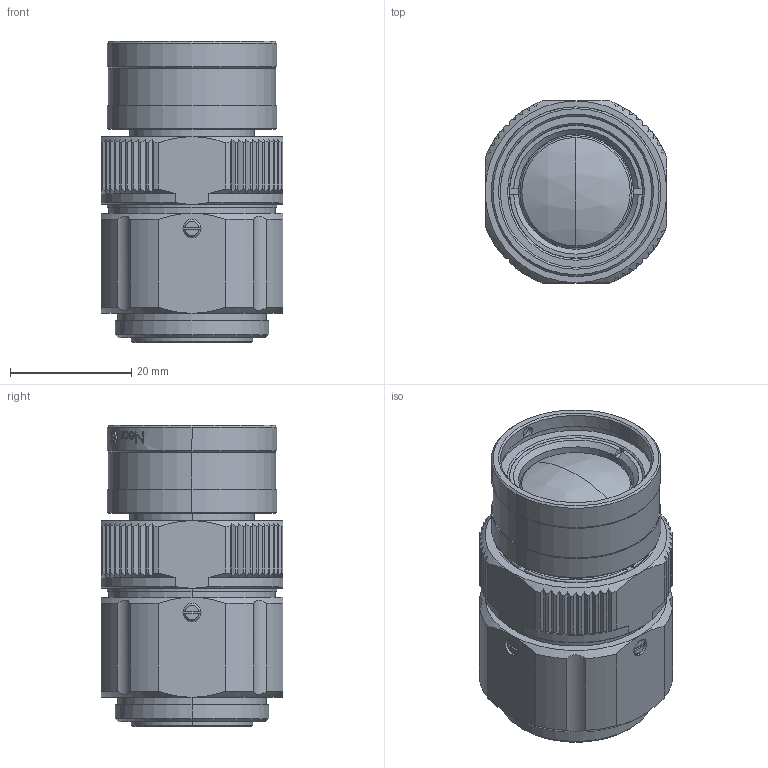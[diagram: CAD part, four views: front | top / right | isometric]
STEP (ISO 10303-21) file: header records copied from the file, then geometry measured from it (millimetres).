
FILE_DESCRIPTION (( 'STEP AP214' ), '1' );
FILE_NAME ('ML-MC1240BR-16C-G.STEP', '2026-02-13T07:55:00', ( '' ), ( '' ), 'SwSTEP 2.0', 'SolidWorks 2025', '' );
FILE_SCHEMA (( 'AUTOMOTIVE_DESIGN' ));
Length unit declared in the file: millimetre
Products named in the file (1): ML-MC1240BR-16C-G
Bounding box: 30 x 30 x 49.68 mm (x, y, z)
Volume: 30743.4 mm3; surface area: 8242.7 mm2
Topology: 1 solids, 1 shells, 500 faces, 1296 edges, 841 vertices
Faces by surface type: plane 212, cylinder 139, cone 78, bspline 61, torus 6, sphere 4
Entity records: 19555 total; most frequent: CARTESIAN_POINT 8018, ORIENTED_EDGE 2592, DIRECTION 2132, EDGE_CURVE 1296, AXIS2_PLACEMENT_3D 865, VERTEX_POINT 841, EDGE_LOOP 543, FACE_OUTER_BOUND 500
